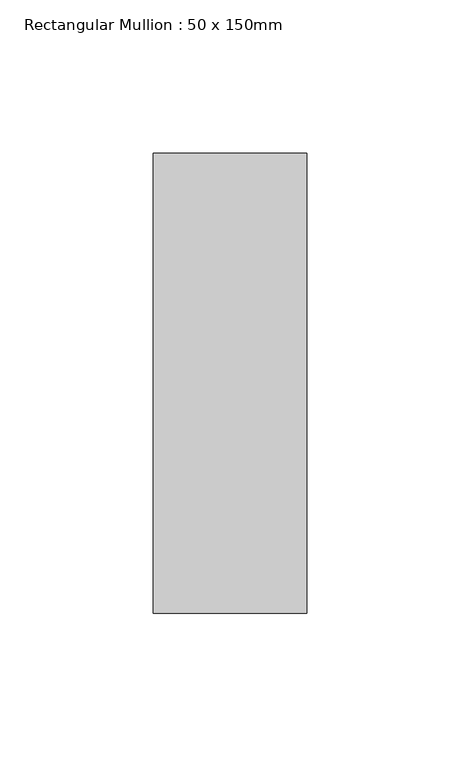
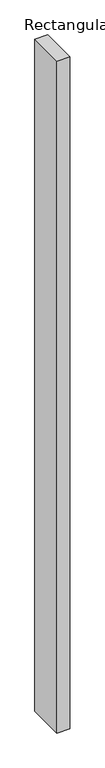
"""IFC4 building model written with IfcOpenShell, lengths in millimetres: member geometry, Rectangular Mullion : 50 x 150mm."""

from ifc_helpers import new_model, si_unit, frame, origin, place, context, project, spatial, polyline, outline, extrude, source, transform, mapped, element, save


def rectangular_mullion_50_x_150mm_5eb82d41(model_context):
    return source(origin(), model_context, "Body", "SweptSolid", [
        extrude(outline(polyline([(0.0, 75.0), (0.0, -75.0), (-50.0, -75.0), (-50.0, 75.0), (0.0, 75.0)])), frame((0.0, 0.0, -2790.592625), z_axis=(0.0, 0.0, 1.0), x_axis=(1.0, 0.0, 0.0)), (0.0, 0.0, 1.0), 2790.592625),
    ])


if __name__ == "__main__":
    model = new_model("IFC4")
    model_context = context("Model", 3, world=origin())
    ifc_project = project(units=[si_unit("LENGTHUNIT", "METRE", prefix="MILLI")], contexts=[model_context])
    site = spatial("IfcSite", under=ifc_project)
    building = spatial("IfcBuilding", under=site)
    placement = place(None, origin())
    rectangular_mullion_50_x_150mm_shape = rectangular_mullion_50_x_150mm_5eb82d41(model_context)
    element("IfcMember", 1, ObjectType="Rectangular Mullion : 50 x 150mm", at=placement, inside=building, context=model_context, shape_type="MappedRepresentation", body=[
        mapped(rectangular_mullion_50_x_150mm_shape, transform((0.0, 0.0, 0.0), x_axis=(1.0, 0.0, 0.0), y_axis=(0.0, 1.0, 0.0), z_axis=(0.0, 0.0, 1.0))),
    ])
    save(model, "model.ifc")
